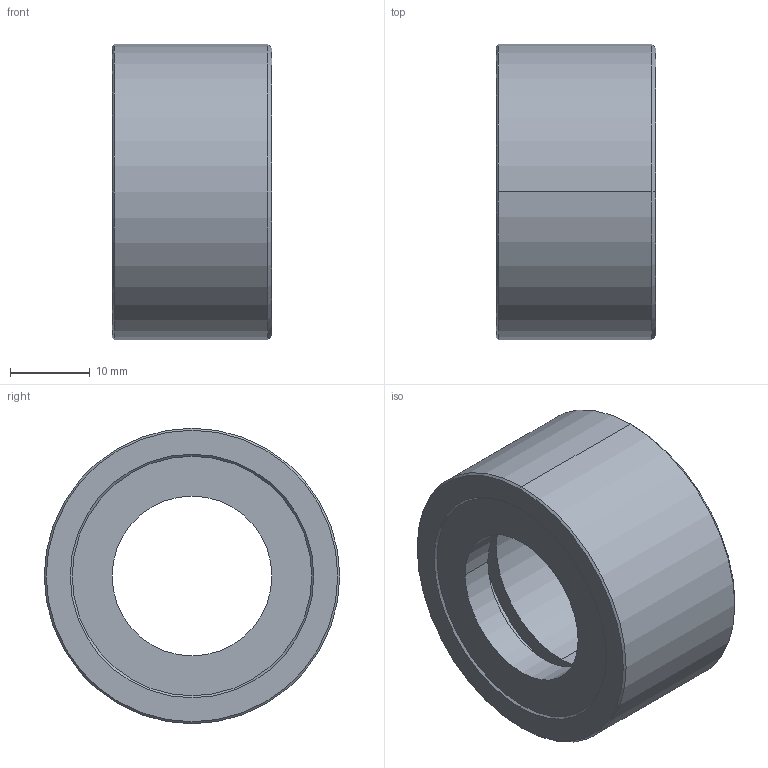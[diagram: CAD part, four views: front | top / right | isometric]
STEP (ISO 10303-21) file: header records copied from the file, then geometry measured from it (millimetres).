
FILE_DESCRIPTION (( 'STEP AP214' ), '1' );
FILE_NAME ('PLL01-20.STEP', '2004-09-02T07:07:57', ( 'Mitarbeiter' ), ( 'Firma' ), 'SwSTEP 2.0', 'SolidWorks 2001287', '' );
FILE_SCHEMA (( 'AUTOMOTIVE_DESIGN' ));
Length unit declared in the file: millimetre
Products named in the file (1): PLL01-20
Bounding box: 20 x 37 x 37 mm (x, y, z)
Volume: 12361.3 mm3; surface area: 6154.2 mm2
Topology: 1 solids, 1 shells, 37 faces, 82 edges, 46 vertices
Faces by surface type: cone 16, cylinder 16, plane 5
Entity records: 1063 total; most frequent: DIRECTION 192, CARTESIAN_POINT 158, ORIENTED_EDGE 148, AXIS2_PLACEMENT_3D 80, EDGE_CURVE 74, EDGE_LOOP 46, VERTEX_POINT 46, CIRCLE 42
